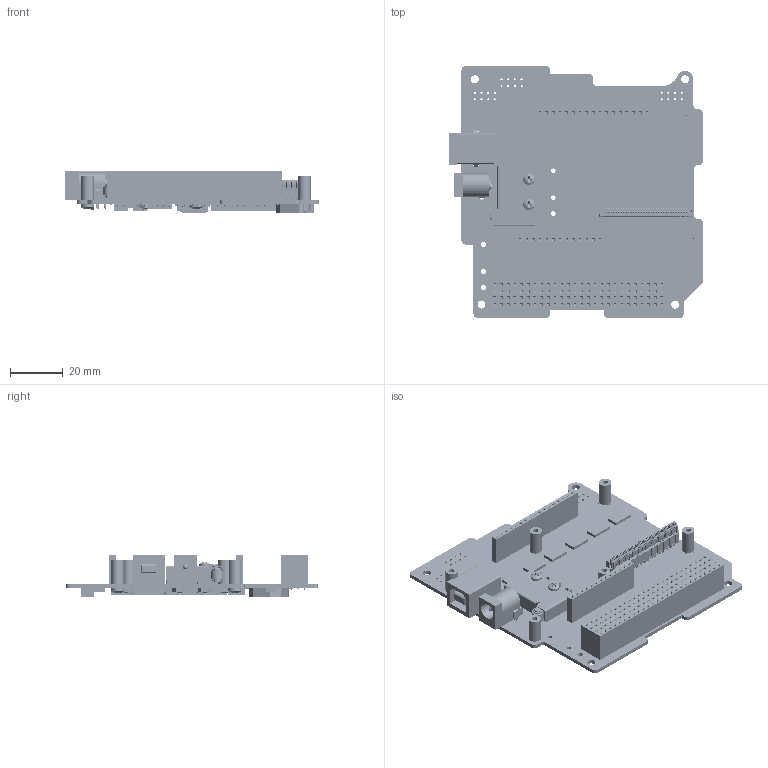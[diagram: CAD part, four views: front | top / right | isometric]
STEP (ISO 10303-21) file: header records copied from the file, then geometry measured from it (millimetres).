
FILE_DESCRIPTION (( 'STEP AP214' ), '1' );
FILE_NAME ('710-00484-E Motherboard Module Non-Stackthrough.STEP', '2018-09-24T19:55:58', ( '' ), ( '' ), 'SwSTEP 2.0', 'SolidWorks 2014', '' );
FILE_SCHEMA (( 'AUTOMOTIVE_DESIGN' ));
Length unit declared in the file: inch
Products named in the file (2): 710-00484-E Motherboard Module Non-Stackthrough
Bounding box: 96.48 x 95.89 x 16.27 mm (x, y, z)
Volume: 31704.5 mm3; surface area: 34237.3 mm2
Topology: 1 solids, 34 shells, 12830 faces, 36704 edges, 23655 vertices
Faces by surface type: plane 9018, cylinder 3542, cone 216, sphere 28, torus 24, bspline 2
Entity records: 441837 total; most frequent: CARTESIAN_POINT 74567, ORIENTED_EDGE 73380, DIRECTION 69494, EDGE_CURVE 36690, VECTOR 28810, LINE 28810, VERTEX_POINT 23653, AXIS2_PLACEMENT_3D 20342
